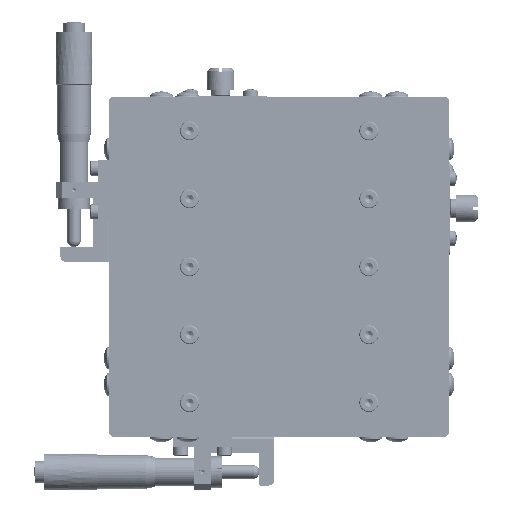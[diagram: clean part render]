
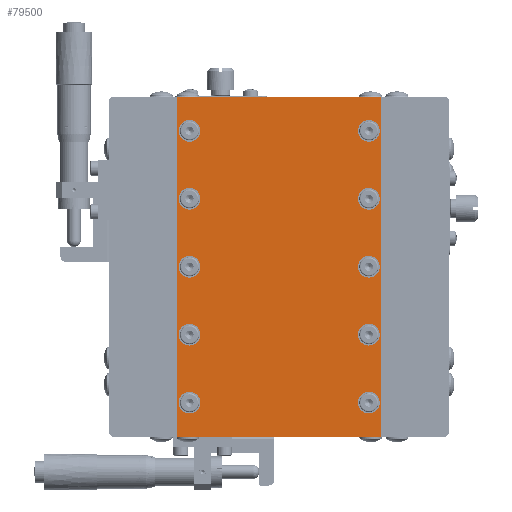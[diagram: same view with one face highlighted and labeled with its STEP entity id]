
A CAD part, front view. The second image highlights one B-rep face of the part: STEP entity #79500.
In plain terms, the highlighted planar face has unit normal (0, -1, 0).
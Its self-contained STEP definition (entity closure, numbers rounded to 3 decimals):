
#1286 = AXIS2_PLACEMENT_3D ( 'NONE', #23852, #8005, #108267 ) ;
#1506 = EDGE_LOOP ( 'NONE', ( #77799 ) ) ;
#3669 = DIRECTION ( 'NONE',  ( 0., -1., 0. ) ) ;
#4935 = CARTESIAN_POINT ( 'NONE',  ( 115.959, -10.215, 10.953 ) ) ;
#5588 = EDGE_LOOP ( 'NONE', ( #7971 ) ) ;
#5723 = LINE ( 'NONE', #196764, #133496 ) ;
#6862 = VERTEX_POINT ( 'NONE', #128102 ) ;
#6875 = ORIENTED_EDGE ( 'NONE', *, *, #172057, .T. ) ;
#7971 = ORIENTED_EDGE ( 'NONE', *, *, #143653, .F. ) ;
#8005 = DIRECTION ( 'NONE',  ( 0., -1., 0. ) ) ;
#8450 = CARTESIAN_POINT ( 'NONE',  ( 120.459, -10.215, -80.547 ) ) ;
#9731 = DIRECTION ( 'NONE',  ( 0., -1., 0. ) ) ;
#12196 = EDGE_LOOP ( 'NONE', ( #80379 ) ) ;
#12592 = DIRECTION ( 'NONE',  ( 0., 1., 0. ) ) ;
#12639 = CIRCLE ( 'NONE', #208131, 4. ) ;
#13569 = AXIS2_PLACEMENT_3D ( 'NONE', #124728, #9731, #107871 ) ;
#14408 = VERTEX_POINT ( 'NONE', #27840 ) ;
#17915 = EDGE_CURVE ( 'NONE', #180173, #180173, #12639, .T. ) ;
#17919 = EDGE_CURVE ( 'NONE', #99995, #99995, #46320, .T. ) ;
#19526 = DIRECTION ( 'NONE',  ( 0., 0., 1. ) ) ;
#20596 = LINE ( 'NONE', #198878, #121470 ) ;
#22115 = VERTEX_POINT ( 'NONE', #184611 ) ;
#22862 = CARTESIAN_POINT ( 'NONE',  ( 115.959, -10.215, -64.047 ) ) ;
#23781 = CARTESIAN_POINT ( 'NONE',  ( 115.959, -10.215, -43.047 ) ) ;
#23852 = CARTESIAN_POINT ( 'NONE',  ( 115.959, -10.215, 31.953 ) ) ;
#24269 = VERTEX_POINT ( 'NONE', #137163 ) ;
#26668 = EDGE_LOOP ( 'NONE', ( #127188 ) ) ;
#27098 = CIRCLE ( 'NONE', #13569, 4. ) ;
#27840 = CARTESIAN_POINT ( 'NONE',  ( 45.459, -10.215, -80.547 ) ) ;
#29570 = AXIS2_PLACEMENT_3D ( 'NONE', #31476, #12592, #125476 ) ;
#31347 = DIRECTION ( 'NONE',  ( 0., 0., 1. ) ) ;
#31476 = CARTESIAN_POINT ( 'NONE',  ( 45.459, -10.215, -80.547 ) ) ;
#34948 = EDGE_CURVE ( 'NONE', #63379, #63379, #141656, .T. ) ;
#38765 = EDGE_CURVE ( 'NONE', #68430, #126374, #20596, .T. ) ;
#40581 = ORIENTED_EDGE ( 'NONE', *, *, #79324, .F. ) ;
#40778 = CIRCLE ( 'NONE', #175648, 4. ) ;
#43555 = EDGE_CURVE ( 'NONE', #22115, #22115, #159244, .T. ) ;
#46320 = CIRCLE ( 'NONE', #164309, 4. ) ;
#47914 = EDGE_LOOP ( 'NONE', ( #62436 ) ) ;
#48153 = EDGE_LOOP ( 'NONE', ( #52638 ) ) ;
#48348 = DIRECTION ( 'NONE',  ( 0., 0., 1. ) ) ;
#48608 = CARTESIAN_POINT ( 'NONE',  ( 45.459, -10.215, -80.547 ) ) ;
#50417 = CARTESIAN_POINT ( 'NONE',  ( 49.959, -10.215, -64.047 ) ) ;
#52638 = ORIENTED_EDGE ( 'NONE', *, *, #43555, .F. ) ;
#57151 = EDGE_CURVE ( 'NONE', #67294, #67294, #40778, .T. ) ;
#59984 = CARTESIAN_POINT ( 'NONE',  ( 115.959, -10.215, -14.047 ) ) ;
#60067 = FACE_BOUND ( 'NONE', #176142, .T. ) ;
#61022 = VERTEX_POINT ( 'NONE', #59984 ) ;
#61097 = DIRECTION ( 'NONE',  ( 0., 0., 1. ) ) ;
#61096 = FACE_BOUND ( 'NONE', #174372, .T. ) ;
#61333 = LINE ( 'NONE', #48608, #69921 ) ;
#61667 = ORIENTED_EDGE ( 'NONE', *, *, #149424, .F. ) ;
#62436 = ORIENTED_EDGE ( 'NONE', *, *, #17915, .F. ) ;
#63379 = VERTEX_POINT ( 'NONE', #76128 ) ;
#64208 = FACE_BOUND ( 'NONE', #48153, .T. ) ;
#65981 = CARTESIAN_POINT ( 'NONE',  ( 49.959, -10.215, -68.047 ) ) ;
#67051 = DIRECTION ( 'NONE',  ( 0., 0., 1. ) ) ;
#67152 = EDGE_CURVE ( 'NONE', #156869, #156869, #92335, .T. ) ;
#67294 = VERTEX_POINT ( 'NONE', #50417 ) ;
#68430 = VERTEX_POINT ( 'NONE', #8450 ) ;
#69921 = VECTOR ( 'NONE', #158436, 1000. ) ;
#70217 = DIRECTION ( 'NONE',  ( 0., -1., 0. ) ) ;
#72752 = CARTESIAN_POINT ( 'NONE',  ( 115.959, -10.215, -68.047 ) ) ;
#74909 = CARTESIAN_POINT ( 'NONE',  ( 49.959, -10.215, -14.047 ) ) ;
#76128 = CARTESIAN_POINT ( 'NONE',  ( 49.959, -10.215, 10.953 ) ) ;
#77799 = ORIENTED_EDGE ( 'NONE', *, *, #17919, .F. ) ;
#77977 = FACE_OUTER_BOUND ( 'NONE', #92914, .T. ) ;
#79324 = EDGE_CURVE ( 'NONE', #14408, #6862, #61333, .T. ) ;
#79500 = ADVANCED_FACE ( 'NONE', ( #94870, #208774, #64208, #142344, #61096, #77977, #60067, #124451, #176101, #173006, #206716 ), #92810, .F. ) ;
#80379 = ORIENTED_EDGE ( 'NONE', *, *, #110783, .F. ) ;
#83919 = AXIS2_PLACEMENT_3D ( 'NONE', #178054, #126377, #31347 ) ;
#86087 = CARTESIAN_POINT ( 'NONE',  ( 45.459, -10.215, -80.547 ) ) ;
#92335 = CIRCLE ( 'NONE', #1286, 4. ) ;
#92810 = PLANE ( 'NONE',  #29570 ) ;
#92914 = EDGE_LOOP ( 'NONE', ( #6875, #40581, #61667, #149722 ) ) ;
#93838 = CARTESIAN_POINT ( 'NONE',  ( 49.959, -10.215, 6.953 ) ) ;
#94250 = ORIENTED_EDGE ( 'NONE', *, *, #106035, .F. ) ;
#94871 = DIRECTION ( 'NONE',  ( 0., -1., 0. ) ) ;
#94870 = FACE_BOUND ( 'NONE', #26668, .T. ) ;
#99995 = VERTEX_POINT ( 'NONE', #4935 ) ;
#106035 = EDGE_CURVE ( 'NONE', #144665, #144665, #27098, .T. ) ;
#106530 = DIRECTION ( 'NONE',  ( 0., -1., 0. ) ) ;
#106584 = VERTEX_POINT ( 'NONE', #74909 ) ;
#107871 = DIRECTION ( 'NONE',  ( 0., 0., 1. ) ) ;
#108267 = DIRECTION ( 'NONE',  ( 0., 0., 1. ) ) ;
#108615 = DIRECTION ( 'NONE',  ( 0., -1., 0. ) ) ;
#110420 = CARTESIAN_POINT ( 'NONE',  ( 115.959, -10.215, 35.953 ) ) ;
#110783 = EDGE_CURVE ( 'NONE', #61022, #61022, #207295, .T. ) ;
#118986 = EDGE_LOOP ( 'NONE', ( #184808 ) ) ;
#121470 = VECTOR ( 'NONE', #67051, 1000. ) ;
#123384 = DIRECTION ( 'NONE',  ( 0., 0., 1. ) ) ;
#123786 = ORIENTED_EDGE ( 'NONE', *, *, #34948, .F. ) ;
#124434 = CARTESIAN_POINT ( 'NONE',  ( 49.959, -10.215, 31.953 ) ) ;
#124451 = FACE_BOUND ( 'NONE', #189107, .T. ) ;
#124728 = CARTESIAN_POINT ( 'NONE',  ( 49.959, -10.215, -43.047 ) ) ;
#125476 = DIRECTION ( 'NONE',  ( 0., 0., 1. ) ) ;
#126374 = VERTEX_POINT ( 'NONE', #143572 ) ;
#126377 = DIRECTION ( 'NONE',  ( 0., -1., 0. ) ) ;
#127188 = ORIENTED_EDGE ( 'NONE', *, *, #139236, .F. ) ;
#128102 = CARTESIAN_POINT ( 'NONE',  ( 45.459, -10.215, 44.453 ) ) ;
#130350 = DIRECTION ( 'NONE',  ( 0., -1., 0. ) ) ;
#132410 = DIRECTION ( 'NONE',  ( -1., 0., 0. ) ) ;
#133496 = VECTOR ( 'NONE', #132410, 1000. ) ;
#134587 = LINE ( 'NONE', #86087, #199390 ) ;
#137163 = CARTESIAN_POINT ( 'NONE',  ( 115.959, -10.215, -39.047 ) ) ;
#139236 = EDGE_CURVE ( 'NONE', #24269, #24269, #195074, .T. ) ;
#141656 = CIRCLE ( 'NONE', #178713, 4. ) ;
#142344 = FACE_BOUND ( 'NONE', #5588, .T. ) ;
#143518 = ORIENTED_EDGE ( 'NONE', *, *, #57151, .F. ) ;
#143572 = CARTESIAN_POINT ( 'NONE',  ( 120.459, -10.215, 44.453 ) ) ;
#143653 = EDGE_CURVE ( 'NONE', #106584, #106584, #174931, .T. ) ;
#144665 = VERTEX_POINT ( 'NONE', #190061 ) ;
#146191 = DIRECTION ( 'NONE',  ( 0., 0., 1. ) ) ;
#149424 = EDGE_CURVE ( 'NONE', #68430, #14408, #134587, .T. ) ;
#149722 = ORIENTED_EDGE ( 'NONE', *, *, #38765, .T. ) ;
#151923 = CARTESIAN_POINT ( 'NONE',  ( 115.959, -10.215, 6.953 ) ) ;
#152537 = DIRECTION ( 'NONE',  ( 0., 0., 1. ) ) ;
#153386 = AXIS2_PLACEMENT_3D ( 'NONE', #180957, #3669, #146191 ) ;
#154002 = DIRECTION ( 'NONE',  ( 0., -1., 0. ) ) ;
#156869 = VERTEX_POINT ( 'NONE', #110420 ) ;
#158436 = DIRECTION ( 'NONE',  ( 0., 0., 1. ) ) ;
#159244 = CIRCLE ( 'NONE', #192944, 4. ) ;
#164309 = AXIS2_PLACEMENT_3D ( 'NONE', #151923, #154002, #171937 ) ;
#171937 = DIRECTION ( 'NONE',  ( 0., 0., 1. ) ) ;
#172057 = EDGE_CURVE ( 'NONE', #126374, #6862, #5723, .T. ) ;
#173006 = FACE_BOUND ( 'NONE', #12196, .T. ) ;
#174372 = EDGE_LOOP ( 'NONE', ( #143518 ) ) ;
#174931 = CIRCLE ( 'NONE', #83919, 4. ) ;
#175648 = AXIS2_PLACEMENT_3D ( 'NONE', #65981, #130350, #19526 ) ;
#176101 = FACE_BOUND ( 'NONE', #118986, .T. ) ;
#176142 = EDGE_LOOP ( 'NONE', ( #94250 ) ) ;
#178054 = CARTESIAN_POINT ( 'NONE',  ( 49.959, -10.215, -18.047 ) ) ;
#178713 = AXIS2_PLACEMENT_3D ( 'NONE', #93838, #94871, #61097 ) ;
#180173 = VERTEX_POINT ( 'NONE', #22862 ) ;
#180957 = CARTESIAN_POINT ( 'NONE',  ( 115.959, -10.215, -18.047 ) ) ;
#184611 = CARTESIAN_POINT ( 'NONE',  ( 49.959, -10.215, 35.953 ) ) ;
#184808 = ORIENTED_EDGE ( 'NONE', *, *, #67152, .F. ) ;
#186289 = DIRECTION ( 'NONE',  ( -1., 0., 0. ) ) ;
#189107 = EDGE_LOOP ( 'NONE', ( #123786 ) ) ;
#190061 = CARTESIAN_POINT ( 'NONE',  ( 49.959, -10.215, -39.047 ) ) ;
#192944 = AXIS2_PLACEMENT_3D ( 'NONE', #124434, #108615, #48348 ) ;
#195074 = CIRCLE ( 'NONE', #208478, 4. ) ;
#196764 = CARTESIAN_POINT ( 'NONE',  ( 45.459, -10.215, 44.453 ) ) ;
#198878 = CARTESIAN_POINT ( 'NONE',  ( 120.459, -10.215, -80.547 ) ) ;
#199390 = VECTOR ( 'NONE', #186289, 1000. ) ;
#206716 = FACE_BOUND ( 'NONE', #47914, .T. ) ;
#207295 = CIRCLE ( 'NONE', #153386, 4. ) ;
#208131 = AXIS2_PLACEMENT_3D ( 'NONE', #72752, #106530, #123384 ) ;
#208478 = AXIS2_PLACEMENT_3D ( 'NONE', #23781, #70217, #152537 ) ;
#208774 = FACE_BOUND ( 'NONE', #1506, .T. ) ;
